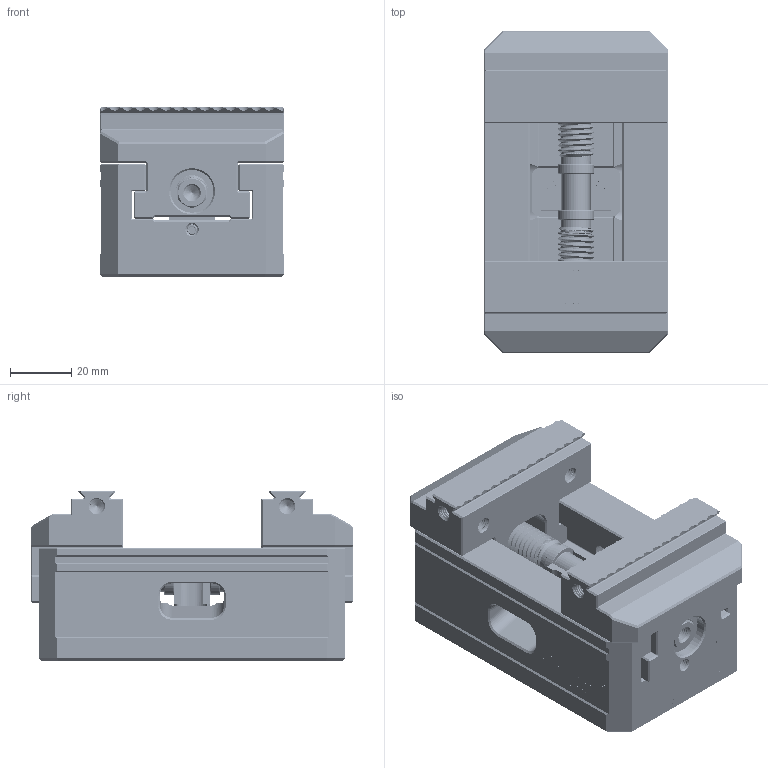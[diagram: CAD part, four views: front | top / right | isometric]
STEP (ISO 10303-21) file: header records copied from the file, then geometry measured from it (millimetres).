
FILE_DESCRIPTION(/* description */ (''),/* implementation_level */ '2;1');
FILE_NAME(/* name */ 'KSF60-100 - YZ.stp',/* time_stamp */ '2025-04-03T20:55:56+08:00',/* author */ (''),/* organization */ (''),/* preprocessor_version */ 'ST-DEVELOPER v20',/* originating_system */ 'SIEMENS PLM Software NX2406.6001',/* authorisation */ '');
FILE_SCHEMA (('AUTOMOTIVE_DESIGN { 1 0 10303 214 3 1 1 1 }'));
Products named in the file (1): KSF60-100 - YZ_objects
Bounding box: 60 x 105 x 55.5 mm (x, y, z)
Volume: 149573.3 mm3; surface area: 62896.9 mm2
Topology: 67 solids, 69 shells, 1570 faces, 4077 edges, 2650 vertices
Faces by surface type: plane 923, cylinder 340, extrusion 148, cone 109, bspline 38, torus 12
Full cylindrical faces by diameter (mm): 3 x2, 3.4 x35, 4.3 x101, 6 x2, 6.5 x4, 6.8 x1, 9 x1, 9.5 x1, 10 x3, 10.5 x6, 12 x2, 14 x4, 16 x1
Entity records: 106634 total; most frequent: CARTESIAN_POINT 65624, ORIENTED_EDGE 6940, DIRECTION 5368, EDGE_CURVE 3470, VERTEX_POINT 2299, VECTOR 1906, LINE 1758, AXIS2_PLACEMENT_3D 1731
